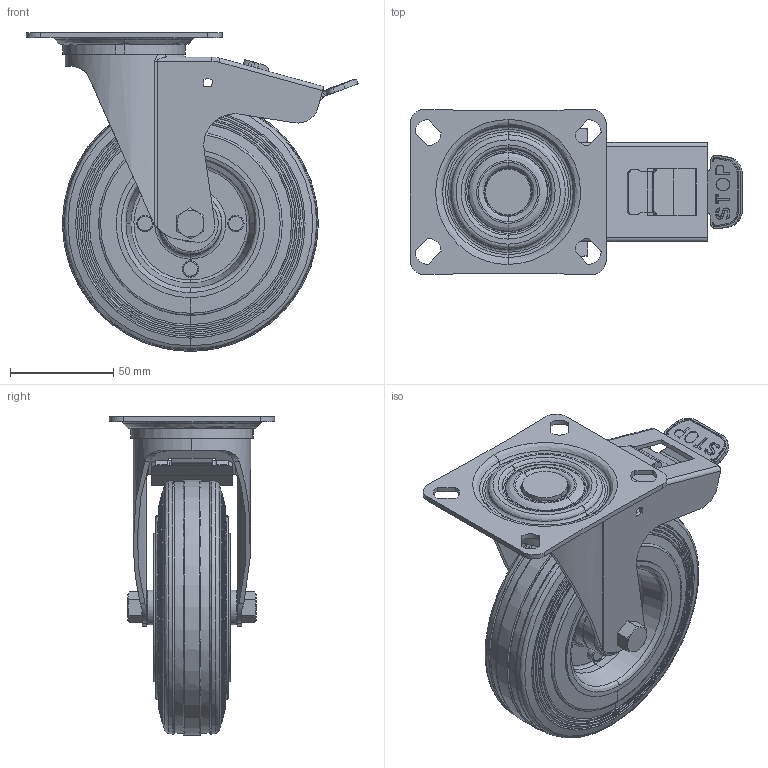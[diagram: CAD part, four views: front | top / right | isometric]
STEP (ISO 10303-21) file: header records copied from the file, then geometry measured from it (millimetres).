
FILE_DESCRIPTION (( 'STEP AP214' ), '1' );
FILE_NAME ('R208125.T35P080X060.STEP', '2022-02-25T09:08:03', ( '' ), ( '' ), 'SwSTEP 2.0', 'SolidWorks 2020', '' );
FILE_SCHEMA (( 'AUTOMOTIVE_DESIGN' ));
Length unit declared in the file: millimetre
Products named in the file (1): R208125.T35P080X060
Bounding box: 160.77 x 79.99 x 154.45 mm (x, y, z)
Volume: 402517 mm3; surface area: 144607.3 mm2
Topology: 18 solids, 18 shells, 746 faces, 1740 edges, 1074 vertices
Faces by surface type: bspline 228, plane 217, cylinder 187, cone 94, torus 20
Entity records: 37940 total; most frequent: CARTESIAN_POINT 13449, ORIENTED_EDGE 3476, DIRECTION 3274, EDGE_CURVE 1738, AXIS2_PLACEMENT_3D 1317, VERTEX_POINT 1074, EDGE_LOOP 828, CIRCLE 798
